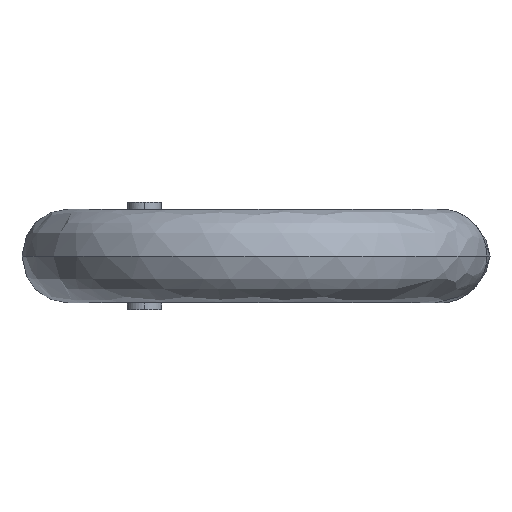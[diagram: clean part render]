
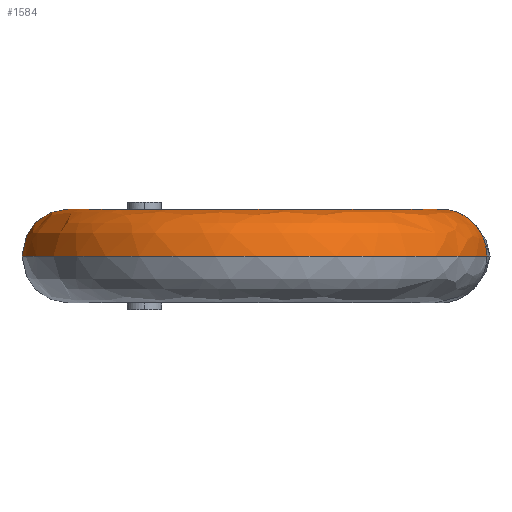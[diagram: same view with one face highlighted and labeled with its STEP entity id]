
A CAD part, left-side view. The second image highlights one B-rep face of the part: STEP entity #1584.
In plain terms, the highlighted free-form (B-spline) face has degree [3, 3] with [7, 4] control points.
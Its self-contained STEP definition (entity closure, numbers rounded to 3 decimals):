
#488 = CARTESIAN_POINT ( 'NONE',  ( -38.177, 10.34, 0. ) ) ;
#642 = CARTESIAN_POINT ( 'NONE',  ( -36.961, 17.234, 0. ) ) ;
#786 = CIRCLE ( 'NONE', #787, 17.5 ) ;
#787 = AXIS2_PLACEMENT_3D ( 'NONE', #788, #789, #790 ) ;
#788 = CARTESIAN_POINT ( 'NONE',  ( -40., 0., 0. ) ) ;
#789 = DIRECTION ( 'NONE',  ( 0., 0., 1. ) ) ;
#790 = DIRECTION ( 'NONE',  ( -0.174, -0.985, 0. ) ) ;
#791 = CIRCLE ( 'NONE', #792, 3.5 ) ;
#792 = AXIS2_PLACEMENT_3D ( 'NONE', #793, #794, #795 ) ;
#793 = CARTESIAN_POINT ( 'NONE',  ( -37.569, 13.787, 0. ) ) ;
#794 = DIRECTION ( 'NONE',  ( 0.985, -0.174, 0. ) ) ;
#795 = DIRECTION ( 'NONE',  ( 0.174, 0.985, 0. ) ) ;
#1443 = EDGE_CURVE ( 'NONE', #1960, #3260, #2960, .T. ) ;
#1472 = ORIENTED_EDGE ( 'NONE', *, *, #1443, .T. ) ;
#1518 = ORIENTED_EDGE ( 'NONE', *, *, #1719, .T. ) ;
#1560 = EDGE_LOOP ( 'NONE', ( #1518, #1472, #1922, #1744 ) ) ;
#1584 = ADVANCED_FACE ( 'NONE', ( #2232 ), #2233, .F. ) ;
#1704 = VERTEX_POINT ( 'NONE', #642 ) ;
#1719 = EDGE_CURVE ( 'NONE', #1704, #1960, #786, .T. ) ;
#1720 = EDGE_CURVE ( 'NONE', #1704, #3046, #791, .T. ) ;
#1744 = ORIENTED_EDGE ( 'NONE', *, *, #1720, .F. ) ;
#1777 = CARTESIAN_POINT ( 'NONE',  ( -41.823, -10.34, 0. ) ) ;
#1914 = CIRCLE ( 'NONE', #1915, 10.5 ) ;
#1915 = AXIS2_PLACEMENT_3D ( 'NONE', #1916, #1926, #1927 ) ;
#1916 = CARTESIAN_POINT ( 'NONE',  ( -40., 0., 0. ) ) ;
#1922 = ORIENTED_EDGE ( 'NONE', *, *, #3274, .T. ) ;
#1926 = DIRECTION ( 'NONE',  ( 0., 0., -1. ) ) ;
#1927 = DIRECTION ( 'NONE',  ( -0.174, -0.985, 0. ) ) ;
#1960 = VERTEX_POINT ( 'NONE', #2444 ) ;
#2232 = FACE_OUTER_BOUND ( 'NONE', #1560, .T. ) ;
#2233 =( BOUNDED_SURFACE ( )  B_SPLINE_SURFACE ( 3, 3, ( 
 ( #2234, #2235, #2236, #2237 ),
 ( #2238, #2239, #2241, #2242 ),
 ( #2243, #2244, #2245, #2246 ),
 ( #2247, #2248, #2249, #2250 ),
 ( #2251, #2252, #2253, #2254 ),
 ( #2255, #2256, #2259, #2260 ),
 ( #2261, #2262, #2263, #2264 ) ),
 .UNSPECIFIED., .F., .F., .F. ) 
 B_SPLINE_SURFACE_WITH_KNOTS ( ( 4, 3, 4 ),
 ( 4, 4 ),
 ( 0.021, 0.5, 0.979 ),
 ( 0., 1. ),
 .UNSPECIFIED. ) 
 GEOMETRIC_REPRESENTATION_ITEM ( )  RATIONAL_B_SPLINE_SURFACE ( (
 ( 0.974, 0.325, 0.325, 0.974),
 ( 0.79, 0.263, 0.263, 0.79),
 ( 0.799, 0.266, 0.266, 0.799),
 ( 1., 0.333, 0.333, 1.),
 ( 0.799, 0.266, 0.266, 0.799),
 ( 0.79, 0.263, 0.263, 0.79),
 ( 0.974, 0.325, 0.325, 0.974) ) ) 
 REPRESENTATION_ITEM ( '' )  SURFACE ( )  );
#2234 = CARTESIAN_POINT ( 'NONE',  ( -36.961, 17.234, 0. ) ) ;
#2235 = CARTESIAN_POINT ( 'NONE',  ( -71.429, 23.312, 0. ) ) ;
#2236 = CARTESIAN_POINT ( 'NONE',  ( -77.507, -11.156, 0. ) ) ;
#2237 = CARTESIAN_POINT ( 'NONE',  ( -43.039, -17.234, 0. ) ) ;
#2238 = CARTESIAN_POINT ( 'NONE',  ( -36.961, 17.234, 2.061 ) ) ;
#2239 = CARTESIAN_POINT ( 'NONE',  ( -71.429, 23.312, 2.061 ) ) ;
#2241 = CARTESIAN_POINT ( 'NONE',  ( -77.507, -11.156, 2.061 ) ) ;
#2242 = CARTESIAN_POINT ( 'NONE',  ( -43.039, -17.234, 2.061 ) ) ;
#2243 = CARTESIAN_POINT ( 'NONE',  ( -37.215, 15.796, 3.5 ) ) ;
#2244 = CARTESIAN_POINT ( 'NONE',  ( -68.806, 21.366, 3.5 ) ) ;
#2245 = CARTESIAN_POINT ( 'NONE',  ( -74.376, -10.225, 3.5 ) ) ;
#2246 = CARTESIAN_POINT ( 'NONE',  ( -42.785, -15.796, 3.5 ) ) ;
#2247 = CARTESIAN_POINT ( 'NONE',  ( -37.569, 13.787, 3.5 ) ) ;
#2248 = CARTESIAN_POINT ( 'NONE',  ( -65.144, 18.649, 3.5 ) ) ;
#2249 = CARTESIAN_POINT ( 'NONE',  ( -70.006, -8.925, 3.5 ) ) ;
#2250 = CARTESIAN_POINT ( 'NONE',  ( -42.431, -13.787, 3.5 ) ) ;
#2251 = CARTESIAN_POINT ( 'NONE',  ( -37.923, 11.779, 3.5 ) ) ;
#2252 = CARTESIAN_POINT ( 'NONE',  ( -61.481, 15.933, 3.5 ) ) ;
#2253 = CARTESIAN_POINT ( 'NONE',  ( -65.635, -7.625, 3.5 ) ) ;
#2254 = CARTESIAN_POINT ( 'NONE',  ( -42.077, -11.779, 3.5 ) ) ;
#2255 = CARTESIAN_POINT ( 'NONE',  ( -38.177, 10.34, 2.061 ) ) ;
#2256 = CARTESIAN_POINT ( 'NONE',  ( -58.858, 13.987, 2.061 ) ) ;
#2259 = CARTESIAN_POINT ( 'NONE',  ( -62.504, -6.694, 2.061 ) ) ;
#2260 = CARTESIAN_POINT ( 'NONE',  ( -41.823, -10.34, 2.061 ) ) ;
#2261 = CARTESIAN_POINT ( 'NONE',  ( -38.177, 10.34, 0. ) ) ;
#2262 = CARTESIAN_POINT ( 'NONE',  ( -58.858, 13.987, 0. ) ) ;
#2263 = CARTESIAN_POINT ( 'NONE',  ( -62.504, -6.694, 0. ) ) ;
#2264 = CARTESIAN_POINT ( 'NONE',  ( -41.823, -10.34, 0. ) ) ;
#2444 = CARTESIAN_POINT ( 'NONE',  ( -43.039, -17.234, 0. ) ) ;
#2960 =( BOUNDED_CURVE ( )  B_SPLINE_CURVE ( 3, ( #2961, #2962, #2963, #2964, #2965, #2966, #2967 ),
 .UNSPECIFIED., .F., .T. ) 
 B_SPLINE_CURVE_WITH_KNOTS ( ( 4, 3, 4 ),
 ( 0.021, 0.5, 0.979 ),
 .UNSPECIFIED. ) 
 CURVE ( )  GEOMETRIC_REPRESENTATION_ITEM ( )  RATIONAL_B_SPLINE_CURVE ( ( 0.974, 0.79, 0.799, 1., 0.799, 0.79, 0.974 ) ) 
 REPRESENTATION_ITEM ( '' )  );
#2961 = CARTESIAN_POINT ( 'NONE',  ( -43.039, -17.234, 0. ) ) ;
#2962 = CARTESIAN_POINT ( 'NONE',  ( -43.039, -17.234, 2.061 ) ) ;
#2963 = CARTESIAN_POINT ( 'NONE',  ( -42.785, -15.796, 3.5 ) ) ;
#2964 = CARTESIAN_POINT ( 'NONE',  ( -42.431, -13.787, 3.5 ) ) ;
#2965 = CARTESIAN_POINT ( 'NONE',  ( -42.077, -11.779, 3.5 ) ) ;
#2966 = CARTESIAN_POINT ( 'NONE',  ( -41.823, -10.34, 2.061 ) ) ;
#2967 = CARTESIAN_POINT ( 'NONE',  ( -41.823, -10.34, 0. ) ) ;
#3046 = VERTEX_POINT ( 'NONE', #488 ) ;
#3260 = VERTEX_POINT ( 'NONE', #1777 ) ;
#3274 = EDGE_CURVE ( 'NONE', #3260, #3046, #1914, .T. ) ;
